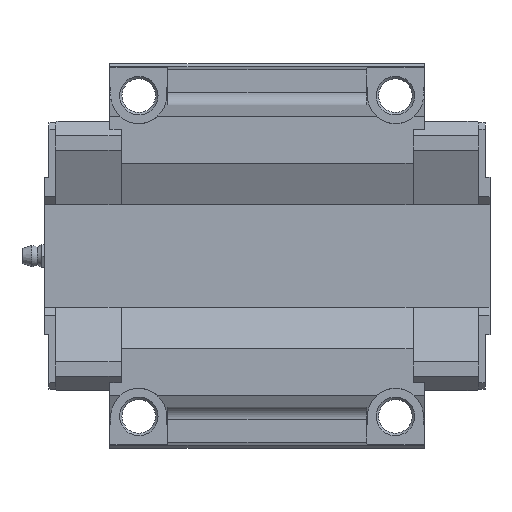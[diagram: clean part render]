
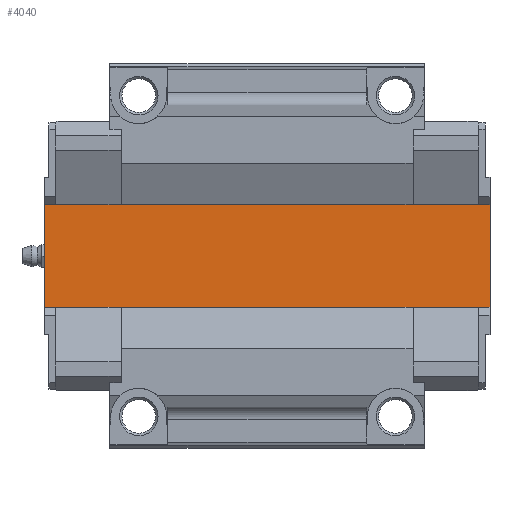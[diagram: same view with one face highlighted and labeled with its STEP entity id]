
A CAD part, front view. The second image highlights one B-rep face of the part: STEP entity #4040.
In plain terms, the highlighted planar face has unit normal (0, -1, 0).
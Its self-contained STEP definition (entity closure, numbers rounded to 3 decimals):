
#262=LINE('',#6041,#694);
#289=LINE('',#6101,#721);
#495=LINE('',#6706,#927);
#496=LINE('',#6708,#928);
#694=VECTOR('',#4777,1000.);
#721=VECTOR('',#4814,1000.);
#927=VECTOR('',#5408,1000.);
#928=VECTOR('',#5411,1000.);
#1080=PLANE('',#4379);
#2177=ORIENTED_EDGE('',*,*,#2516,.F.);
#2178=ORIENTED_EDGE('',*,*,#2829,.F.);
#2179=ORIENTED_EDGE('',*,*,#2547,.T.);
#2180=ORIENTED_EDGE('',*,*,#2830,.T.);
#2516=EDGE_CURVE('',#3019,#3020,#262,.T.);
#2547=EDGE_CURVE('',#3048,#3047,#289,.T.);
#2829=EDGE_CURVE('',#3048,#3019,#495,.T.);
#2830=EDGE_CURVE('',#3047,#3020,#496,.T.);
#3019=VERTEX_POINT('',#6040);
#3020=VERTEX_POINT('',#6042);
#3047=VERTEX_POINT('',#6100);
#3048=VERTEX_POINT('',#6102);
#3547=EDGE_LOOP('',(#2177,#2178,#2179,#2180));
#3809=FACE_BOUND('',#3547,.T.);
#4040=ADVANCED_FACE('',(#3809),#1080,.T.);
#4379=AXIS2_PLACEMENT_3D('',#6707,#5409,#5410);
#4777=DIRECTION('',(0.,0.,1.));
#4814=DIRECTION('',(0.,0.,1.));
#5408=DIRECTION('',(-1.,0.,0.));
#5409=DIRECTION('',(0.,-1.,0.));
#5410=DIRECTION('',(0.,0.,-1.));
#5411=DIRECTION('',(-1.,0.,0.));
#6040=CARTESIAN_POINT('',(-69.5,28.,-17.001));
#6041=CARTESIAN_POINT('',(-69.5,28.,-17.001));
#6042=CARTESIAN_POINT('',(-69.5,28.,17.001));
#6100=CARTESIAN_POINT('',(69.5,28.,17.001));
#6101=CARTESIAN_POINT('',(69.5,28.,-17.001));
#6102=CARTESIAN_POINT('',(69.5,28.,-17.001));
#6706=CARTESIAN_POINT('',(69.5,28.,-17.001));
#6707=CARTESIAN_POINT('',(69.5,28.,-17.001));
#6708=CARTESIAN_POINT('',(69.5,28.,17.001));
